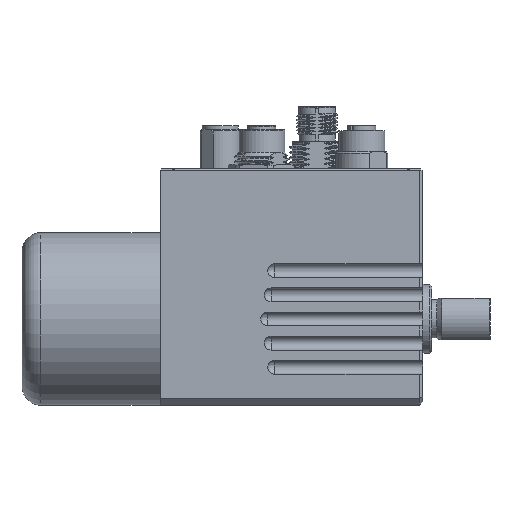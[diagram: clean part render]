
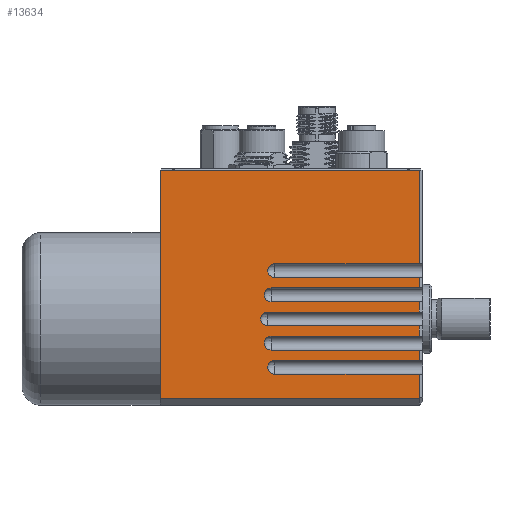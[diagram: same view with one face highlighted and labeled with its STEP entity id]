
A CAD part, left-side view. The second image highlights one B-rep face of the part: STEP entity #13634.
In plain terms, the highlighted planar face has unit normal (-1, 0, 0).
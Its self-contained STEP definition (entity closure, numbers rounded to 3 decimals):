
#566=PLANE('',#14686);
#1120=FACE_OUTER_BOUND('',#1952,.T.);
#1952=EDGE_LOOP('',(#11173,#11174,#11175,#11176,#11177,#11178,#11179,#11180,
#11181,#11182,#11183,#11184,#11185,#11186,#11187,#11188,#11189,#11190,#11191,
#11192,#11193,#11194,#11195,#11196,#11197));
#2643=CIRCLE('',#14678,2.);
#2645=CIRCLE('',#14682,2.);
#2646=CIRCLE('',#14687,2.);
#2647=CIRCLE('',#14688,2.);
#2648=CIRCLE('',#14689,2.);
#3634=LINE('',#22015,#4395);
#3639=LINE('',#22028,#4400);
#3670=LINE('',#22821,#4431);
#3675=LINE('',#22832,#4436);
#3685=LINE('',#22854,#4446);
#3695=LINE('',#22876,#4456);
#3705=LINE('',#22898,#4466);
#3988=LINE('',#41624,#4749);
#4072=LINE('',#41879,#4833);
#4074=LINE('',#41884,#4835);
#4086=LINE('',#41917,#4847);
#4090=LINE('',#41927,#4851);
#4093=LINE('',#41932,#4854);
#4095=LINE('',#41936,#4856);
#4096=LINE('',#41940,#4857);
#4097=LINE('',#41942,#4858);
#4098=LINE('',#41944,#4859);
#4099=LINE('',#41947,#4860);
#4100=LINE('',#41949,#4861);
#4101=LINE('',#41950,#4862);
#4395=VECTOR('',#15372,10.);
#4400=VECTOR('',#15383,10.);
#4431=VECTOR('',#15496,10.);
#4436=VECTOR('',#15503,10.);
#4446=VECTOR('',#15517,10.);
#4456=VECTOR('',#15531,10.);
#4466=VECTOR('',#15545,10.);
#4749=VECTOR('',#16798,10.);
#4833=VECTOR('',#17096,10.);
#4835=VECTOR('',#17100,10.);
#4847=VECTOR('',#17132,10.);
#4851=VECTOR('',#17144,10.);
#4854=VECTOR('',#17149,10.);
#4856=VECTOR('',#17153,10.);
#4857=VECTOR('',#17156,10.);
#4858=VECTOR('',#17159,10.);
#4859=VECTOR('',#17160,10.);
#4860=VECTOR('',#17163,10.);
#4861=VECTOR('',#17166,10.);
#4862=VECTOR('',#17167,10.);
#5209=VERTEX_POINT('',#21995);
#5215=VERTEX_POINT('',#22014);
#5220=VERTEX_POINT('',#22026);
#5318=VERTEX_POINT('',#22817);
#5320=VERTEX_POINT('',#22820);
#5323=VERTEX_POINT('',#22828);
#5325=VERTEX_POINT('',#22831);
#5333=VERTEX_POINT('',#22850);
#5335=VERTEX_POINT('',#22853);
#5343=VERTEX_POINT('',#22872);
#5345=VERTEX_POINT('',#22875);
#5353=VERTEX_POINT('',#22894);
#5355=VERTEX_POINT('',#22897);
#5935=VERTEX_POINT('',#41621);
#6000=VERTEX_POINT('',#41877);
#6002=VERTEX_POINT('',#41882);
#6012=VERTEX_POINT('',#41912);
#6013=VERTEX_POINT('',#41916);
#6015=VERTEX_POINT('',#41923);
#6016=VERTEX_POINT('',#41930);
#6017=VERTEX_POINT('',#41934);
#6018=VERTEX_POINT('',#41938);
#6019=VERTEX_POINT('',#41939);
#6020=VERTEX_POINT('',#41943);
#6021=VERTEX_POINT('',#41946);
#6638=EDGE_CURVE('',#5209,#5215,#3634,.T.);
#6645=EDGE_CURVE('',#5220,#5209,#3639,.T.);
#6753=EDGE_CURVE('',#5320,#5318,#3670,.T.);
#6758=EDGE_CURVE('',#5325,#5323,#3675,.T.);
#6768=EDGE_CURVE('',#5335,#5333,#3685,.T.);
#6778=EDGE_CURVE('',#5345,#5343,#3695,.T.);
#6788=EDGE_CURVE('',#5355,#5353,#3705,.T.);
#7670=EDGE_CURVE('',#5935,#5220,#3988,.T.);
#7804=EDGE_CURVE('',#6000,#5333,#4072,.T.);
#7806=EDGE_CURVE('',#6002,#5323,#4074,.T.);
#7823=EDGE_CURVE('',#6012,#5325,#2643,.T.);
#7825=EDGE_CURVE('',#6013,#6012,#4086,.T.);
#7829=EDGE_CURVE('',#6015,#5345,#2645,.T.);
#7831=EDGE_CURVE('',#6000,#6015,#4090,.T.);
#7834=EDGE_CURVE('',#6016,#5343,#4093,.T.);
#7836=EDGE_CURVE('',#6017,#5353,#4095,.T.);
#7837=EDGE_CURVE('',#6018,#6019,#4096,.T.);
#7838=EDGE_CURVE('',#6019,#5320,#2646,.T.);
#7839=EDGE_CURVE('',#6013,#5318,#4097,.T.);
#7840=EDGE_CURVE('',#6002,#6020,#4098,.T.);
#7841=EDGE_CURVE('',#6020,#5335,#2647,.T.);
#7842=EDGE_CURVE('',#6016,#6021,#4099,.T.);
#7843=EDGE_CURVE('',#6021,#5355,#2648,.T.);
#7844=EDGE_CURVE('',#5215,#6017,#4100,.T.);
#7845=EDGE_CURVE('',#6018,#5935,#4101,.T.);
#11173=ORIENTED_EDGE('',*,*,#7837,.T.);
#11174=ORIENTED_EDGE('',*,*,#7838,.T.);
#11175=ORIENTED_EDGE('',*,*,#6753,.T.);
#11176=ORIENTED_EDGE('',*,*,#7839,.F.);
#11177=ORIENTED_EDGE('',*,*,#7825,.T.);
#11178=ORIENTED_EDGE('',*,*,#7823,.T.);
#11179=ORIENTED_EDGE('',*,*,#6758,.T.);
#11180=ORIENTED_EDGE('',*,*,#7806,.F.);
#11181=ORIENTED_EDGE('',*,*,#7840,.T.);
#11182=ORIENTED_EDGE('',*,*,#7841,.T.);
#11183=ORIENTED_EDGE('',*,*,#6768,.T.);
#11184=ORIENTED_EDGE('',*,*,#7804,.F.);
#11185=ORIENTED_EDGE('',*,*,#7831,.T.);
#11186=ORIENTED_EDGE('',*,*,#7829,.T.);
#11187=ORIENTED_EDGE('',*,*,#6778,.T.);
#11188=ORIENTED_EDGE('',*,*,#7834,.F.);
#11189=ORIENTED_EDGE('',*,*,#7842,.T.);
#11190=ORIENTED_EDGE('',*,*,#7843,.T.);
#11191=ORIENTED_EDGE('',*,*,#6788,.T.);
#11192=ORIENTED_EDGE('',*,*,#7836,.F.);
#11193=ORIENTED_EDGE('',*,*,#7844,.F.);
#11194=ORIENTED_EDGE('',*,*,#6638,.F.);
#11195=ORIENTED_EDGE('',*,*,#6645,.F.);
#11196=ORIENTED_EDGE('',*,*,#7670,.F.);
#11197=ORIENTED_EDGE('',*,*,#7845,.F.);
#13634=ADVANCED_FACE('',(#1120),#566,.T.);
#14678=AXIS2_PLACEMENT_3D('',#41913,#17127,#17128);
#14682=AXIS2_PLACEMENT_3D('',#41924,#17139,#17140);
#14686=AXIS2_PLACEMENT_3D('',#41937,#17154,#17155);
#14687=AXIS2_PLACEMENT_3D('',#41941,#17157,#17158);
#14688=AXIS2_PLACEMENT_3D('',#41945,#17161,#17162);
#14689=AXIS2_PLACEMENT_3D('',#41948,#17164,#17165);
#15372=DIRECTION('',(0.,0.,1.));
#15383=DIRECTION('',(0.,0.,1.));
#15496=DIRECTION('',(0.,-1.,0.));
#15503=DIRECTION('',(0.,-1.,0.));
#15517=DIRECTION('',(0.,-1.,0.));
#15531=DIRECTION('',(0.,-1.,0.));
#15545=DIRECTION('',(0.,-1.,0.));
#16798=DIRECTION('',(0.,1.,0.));
#17096=DIRECTION('',(0.,0.,-1.));
#17100=DIRECTION('',(0.,0.,-1.));
#17127=DIRECTION('center_axis',(1.,0.,0.));
#17128=DIRECTION('ref_axis',(0.,0.,
1.));
#17132=DIRECTION('',(0.,1.,0.));
#17139=DIRECTION('center_axis',(1.,0.,0.));
#17140=DIRECTION('ref_axis',(0.,0.,
1.));
#17144=DIRECTION('',(0.,1.,0.));
#17149=DIRECTION('',(0.,0.,-1.));
#17153=DIRECTION('',(0.,0.,-1.));
#17154=DIRECTION('center_axis',(-1.,0.,0.));
#17155=DIRECTION('ref_axis',(0.,0.,
1.));
#17156=DIRECTION('',(0.,1.,0.));
#17157=DIRECTION('center_axis',(1.,0.,0.));
#17158=DIRECTION('ref_axis',(0.,0.,
1.));
#17159=DIRECTION('',(0.,0.,-1.));
#17160=DIRECTION('',(0.,1.,0.));
#17161=DIRECTION('center_axis',(1.,0.,0.));
#17162=DIRECTION('ref_axis',(0.,0.,
1.));
#17163=DIRECTION('',(0.,1.,0.));
#17164=DIRECTION('center_axis',(1.,0.,0.));
#17165=DIRECTION('ref_axis',(0.,0.,
1.));
#17166=DIRECTION('',(0.,-1.,0.));
#17167=DIRECTION('',(0.,0.,-1.));
#21995=CARTESIAN_POINT('',(-25.,78.7,0.));
#22014=CARTESIAN_POINT('',(-25.,78.7,43.));
#22015=CARTESIAN_POINT('',(-25.,78.7,39.));
#22026=CARTESIAN_POINT('',(-25.,78.7,-23.));
#22028=CARTESIAN_POINT('',(-25.,78.7,39.));
#22817=CARTESIAN_POINT('',(-25.,3.5,-12.));
#22820=CARTESIAN_POINT('',(-25.,45.5,-12.));
#22821=CARTESIAN_POINT('',(-25.,24.1,-12.));
#22828=CARTESIAN_POINT('',(-25.,3.5,-5.));
#22831=CARTESIAN_POINT('',(-25.,46.5,-5.));
#22832=CARTESIAN_POINT('',(-25.,24.6,-5.));
#22850=CARTESIAN_POINT('',(-25.,3.5,2.));
#22853=CARTESIAN_POINT('',(-25.,47.5,2.));
#22854=CARTESIAN_POINT('',(-25.,25.1,2.));
#22872=CARTESIAN_POINT('',(-25.,3.5,9.));
#22875=CARTESIAN_POINT('',(-25.,46.5,9.));
#22876=CARTESIAN_POINT('',(-25.,24.6,9.));
#22894=CARTESIAN_POINT('',(-25.,3.5,16.));
#22897=CARTESIAN_POINT('',(-25.,45.5,16.));
#22898=CARTESIAN_POINT('',(-25.,24.1,16.));
#41621=CARTESIAN_POINT('',(-25.,3.5,-23.));
#41624=CARTESIAN_POINT('',(-25.,2.7,-23.));
#41877=CARTESIAN_POINT('',(-25.,3.5,5.));
#41879=CARTESIAN_POINT('',(-25.,3.5,-12.5));
#41882=CARTESIAN_POINT('',(-25.,3.5,-2.));
#41884=CARTESIAN_POINT('',(-25.,3.5,-12.5));
#41912=CARTESIAN_POINT('',(-25.,46.5,-9.));
#41913=CARTESIAN_POINT('Origin',(-25.,46.5,-7.));
#41916=CARTESIAN_POINT('',(-25.,3.5,-9.));
#41917=CARTESIAN_POINT('',(-25.,2.6,-9.));
#41923=CARTESIAN_POINT('',(-25.,46.5,5.));
#41924=CARTESIAN_POINT('Origin',(-25.,46.5,7.));
#41927=CARTESIAN_POINT('',(-25.,2.6,5.));
#41930=CARTESIAN_POINT('',(-25.,3.5,12.));
#41932=CARTESIAN_POINT('',(-25.,3.5,-12.5));
#41934=CARTESIAN_POINT('',(-25.,3.5,43.));
#41936=CARTESIAN_POINT('',(-25.,3.5,43.5));
#41937=CARTESIAN_POINT('Origin',(-25.,2.7,-25.));
#41938=CARTESIAN_POINT('',(-25.,3.5,-16.));
#41939=CARTESIAN_POINT('',(-25.,45.5,-16.));
#41940=CARTESIAN_POINT('',(-25.,2.6,-16.));
#41941=CARTESIAN_POINT('Origin',(-25.,45.5,-14.));
#41942=CARTESIAN_POINT('',(-25.,3.5,-12.5));
#41943=CARTESIAN_POINT('',(-25.,47.5,-2.));
#41944=CARTESIAN_POINT('',(-25.,2.6,-2.));
#41945=CARTESIAN_POINT('Origin',(-25.,47.5,0.));
#41946=CARTESIAN_POINT('',(-25.,45.5,12.));
#41947=CARTESIAN_POINT('',(-25.,2.6,12.));
#41948=CARTESIAN_POINT('Origin',(-25.,45.5,14.));
#41949=CARTESIAN_POINT('',(-25.,21.7,43.));
#41950=CARTESIAN_POINT('',(-25.,3.5,-12.5));
